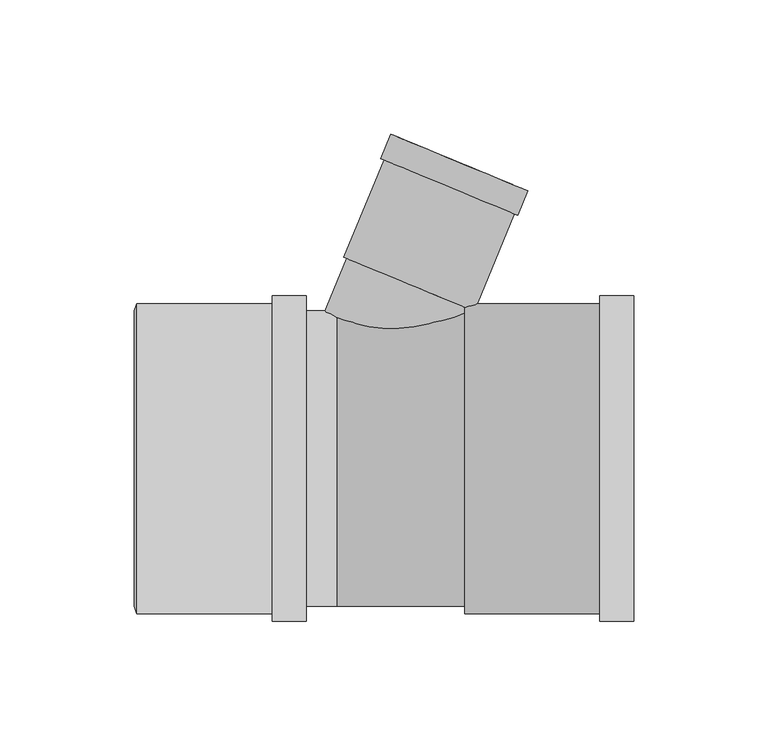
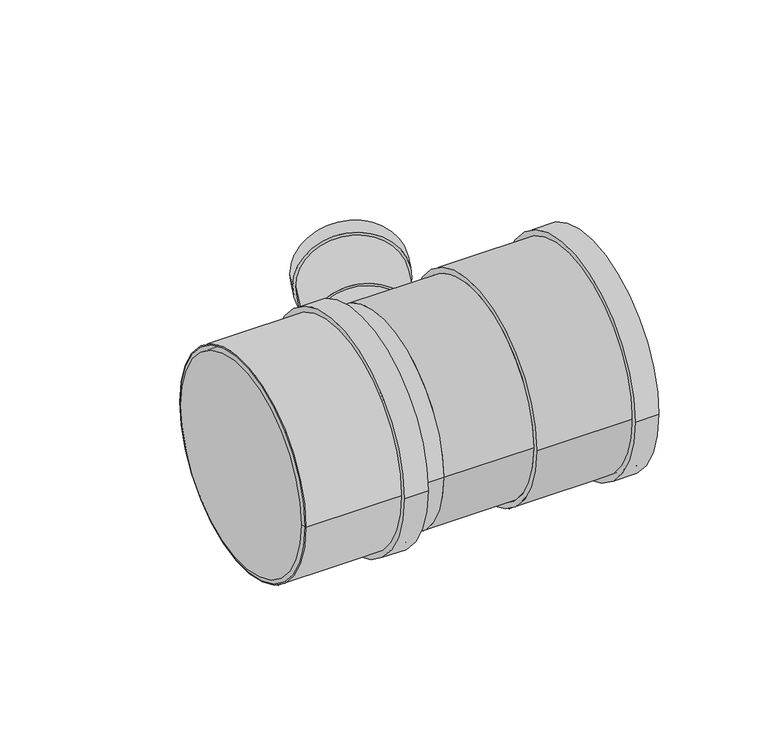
"""IFC4 building model written with IfcOpenShell, lengths in millimetres: pipe fitting geometry, Superdrain HTEA Branch : Superdrain HTEA Branch."""

import ifcopenshell
import ifcopenshell.guid

model = None  # the IFC model being written
_history = None  # IfcOwnerHistory: only IFC2X3 demands one
_inside = {}  # id of a spatial element -> (the spatial element, [elements in it])
_under = {}  # id of a project, library or spatial element -> (it, [spatial elements below it])
_declared = {}  # id of a project -> (the project, [libraries it declares])
_typed = {}  # id of a type object -> (the type object, [elements of that type])
_made_of = {}  # id of a material, layer set ... -> (it, [elements and type objects made of it])


def new_model(schema):
    """Start an empty IFC model of exactly this schema.

    Asked for "IFC4X3", IfcOpenShell would pick the latest addendum, in which some entities
    have other attributes; the version numbers below select the first issue.
    IFC2X3 requires an IfcOwnerHistory on every rooted entity: one is made here for all.
    """
    global model, _history
    if schema == "IFC4X3":
        model = ifcopenshell.file(schema_version=(4, 3, 0, 0))
    else:
        model = ifcopenshell.file(schema=schema)
    _inside.clear()
    _under.clear()
    _declared.clear()
    _typed.clear()
    _made_of.clear()
    _history = None
    if model.schema == "IFC2X3":
        org = make("IfcOrganization", Name="unknown")
        user = make(
            "IfcPersonAndOrganization",
            ThePerson=make("IfcPerson", FamilyName="unknown"),
            TheOrganization=org,
        )
        app = make(
            "IfcApplication",
            ApplicationDeveloper=org,
            Version="unknown",
            ApplicationFullName="unknown",
            ApplicationIdentifier="unknown",
        )
        _history = make(
            "IfcOwnerHistory",
            OwningUser=user,
            OwningApplication=app,
            ChangeAction="ADDED",
            CreationDate=0,
        )
    return model


def make(cls, **values):
    """One entity of the class cls with the attributes given. An attribute that is None is left unset."""
    return model.create_entity(
        cls, **{name: value for name, value in values.items() if value is not None}
    )


def rooted(cls, **values):
    """An entity with a GlobalId (a new one), such as an element, a storey or a relation."""
    return make(cls, GlobalId=ifcopenshell.guid.new(), OwnerHistory=_history, **values)


def si_unit(unit_type, name, prefix=None):
    """IfcSIUnit, for example si_unit("LENGTHUNIT", "METRE", prefix="MILLI")."""
    return make("IfcSIUnit", UnitType=unit_type, Prefix=prefix, Name=name)


def assignment(units):
    """IfcUnitAssignment: the units of a project."""
    return None if units is None else make("IfcUnitAssignment", Units=units)


def point(xyz):
    """IfcCartesianPoint."""
    return None if xyz is None else make("IfcCartesianPoint", Coordinates=xyz)


def direction(xyz):
    """IfcDirection."""
    return None if xyz is None else make("IfcDirection", DirectionRatios=xyz)


def frame(location, z_axis=None, x_axis=None):
    """IfcAxis2Placement3D, a coordinate frame: its origin and axes. An axis left out is left unset."""
    return make(
        "IfcAxis2Placement3D",
        Location=point(location),
        Axis=direction(z_axis),
        RefDirection=direction(x_axis),
    )


def frame_2d(location, x_axis=None):
    """IfcAxis2Placement2D, a coordinate frame in the plane: its origin and x axis."""
    return make(
        "IfcAxis2Placement2D", Location=point(location), RefDirection=direction(x_axis)
    )


def origin():
    """The frame at (0, 0, 0) with its axes left unset."""
    return frame((0.0, 0.0, 0.0))


def origin_2d():
    """The frame at (0, 0) in the plane with its x axis left unset."""
    return frame_2d((0.0, 0.0))


def place(relative_to, where):
    """IfcLocalPlacement: puts the frame where relative to a parent placement (None: the world)."""
    return make(
        "IfcLocalPlacement", PlacementRelTo=relative_to, RelativePlacement=where
    )


def context(
    kind, dimensions, precision=None, world=None, true_north=None, identifier=None
):
    """IfcGeometricRepresentationContext, for example the 3D "Model" context."""
    return make(
        "IfcGeometricRepresentationContext",
        ContextIdentifier=identifier,
        ContextType=kind,
        CoordinateSpaceDimension=dimensions,
        Precision=precision,
        WorldCoordinateSystem=world,
        TrueNorth=true_north,
    )


def project(units=None, contexts=None):
    """IfcProject with its units and contexts."""
    return rooted(
        "IfcProject",
        Name="project",
        RepresentationContexts=contexts,
        UnitsInContext=assignment(units),
    )


def spatial(cls, under=None, at=None, **own):
    """A site, building, storey or space (cls), placed at a placement, below another one or the project."""
    s = rooted(cls, ObjectPlacement=at, **own)
    if under is not None:
        _under.setdefault(under.id(), (under, []))[1].append(s)
    return s


def polyline(points):
    """IfcPolyline through the points."""
    return make("IfcPolyline", Points=[point(p) for p in points])


def circle_curve(where, radius):
    """IfcCircle in the frame where."""
    return make("IfcCircle", Position=where, Radius=radius)


def trimmed(basis, trim1, trim2, sense, master):
    """IfcTrimmedCurve: the piece of a basis curve between two trims."""
    return make(
        "IfcTrimmedCurve",
        BasisCurve=basis,
        Trim1=trim1,
        Trim2=trim2,
        SenseAgreement=sense,
        MasterRepresentation=master,
    )


def segment(curve, same_sense, transition):
    """IfcCompositeCurveSegment."""
    return make(
        "IfcCompositeCurveSegment",
        Transition=transition,
        SameSense=same_sense,
        ParentCurve=curve,
    )


def composite_curve(segments, self_intersect=None):
    """IfcCompositeCurve: segments joined end to end."""
    return make("IfcCompositeCurve", Segments=segments, SelfIntersect=self_intersect)


def outline(outer, holes=None, kind="AREA"):
    """IfcArbitraryClosedProfileDef: a profile drawn as a closed curve; with holes, ...WithVoids."""
    if holes is None:
        return make("IfcArbitraryClosedProfileDef", ProfileType=kind, OuterCurve=outer)
    return make(
        "IfcArbitraryProfileDefWithVoids",
        ProfileType=kind,
        OuterCurve=outer,
        InnerCurves=holes,
    )


def extrude(swept, where, along, depth):
    """IfcExtrudedAreaSolid: the profile swept, set in the frame where, extruded along a direction by depth."""
    return make(
        "IfcExtrudedAreaSolid",
        SweptArea=swept,
        Position=where,
        ExtrudedDirection=direction(along),
        Depth=depth,
    )


def shape(context_of_items, identifier, shape_type, items):
    """IfcShapeRepresentation: the items that make up one representation, for example the "Body"."""
    return make(
        "IfcShapeRepresentation",
        ContextOfItems=context_of_items,
        RepresentationIdentifier=identifier,
        RepresentationType=shape_type,
        Items=items,
    )


def source(mapping_origin, context_of_items, identifier, shape_type, items):
    """IfcRepresentationMap: a shape defined once, which mapped items show again and again."""
    return make(
        "IfcRepresentationMap",
        MappingOrigin=mapping_origin,
        MappedRepresentation=shape(context_of_items, identifier, shape_type, items),
    )


def transform(
    local_origin,
    x_axis=None,
    y_axis=None,
    z_axis=None,
    scale=None,
    scale2=None,
    scale3=None,
    uniform=True,
):
    """IfcCartesianTransformationOperator3D, or its non-uniform kind. x_axis, y_axis, z_axis: its Axis1, 2, 3."""
    if uniform:
        return make(
            "IfcCartesianTransformationOperator3D",
            Axis1=direction(x_axis),
            Axis2=direction(y_axis),
            LocalOrigin=point(local_origin),
            Scale=scale,
            Axis3=direction(z_axis),
        )
    return make(
        "IfcCartesianTransformationOperator3DnonUniform",
        Axis1=direction(x_axis),
        Axis2=direction(y_axis),
        LocalOrigin=point(local_origin),
        Scale=scale,
        Axis3=direction(z_axis),
        Scale2=scale2,
        Scale3=scale3,
    )


def mapped(mapping_source, mapping_target):
    """IfcMappedItem: shows the shape of a source again, moved by a transform."""
    return make(
        "IfcMappedItem", MappingSource=mapping_source, MappingTarget=mapping_target
    )


def made_of(thing, what):
    """Note that an element or type object is made of a material, layer set ...; save() writes the relation."""
    if what is not None:
        _made_of.setdefault(what.id(), (what, []))[1].append(thing)
    return thing


def element(
    cls,
    number,
    at=None,
    inside=None,
    cuts=None,
    type_object=None,
    material=None,
    context=None,
    identifier="Body",
    shape_type=None,
    held_by="IfcProductDefinitionShape",
    body=None,
    shapes=None,
    **own,
):
    """One element of the class cls, such as IfcWall. Its Tag is "e" and its number.

    at: its placement. inside: the storey or other place that contains it. cuts: it is an
    opening in that element (IfcRelVoidsElement). A single representation is given by context,
    identifier, shape_type and body (its items); several are given by shapes. held_by: the class
    of the entity that holds the representations. save() writes the other relations.
    """
    e = rooted(cls, Tag="e%d" % number, ObjectPlacement=at, **own)
    if body is not None:
        shapes = [shape(context, identifier, shape_type, body)]
    if shapes is not None:
        e.Representation = make(held_by, Representations=shapes)
    if inside is not None:
        _inside.setdefault(inside.id(), (inside, []))[1].append(e)
    if cuts is not None:
        rooted(
            "IfcRelVoidsElement", RelatingBuildingElement=cuts, RelatedOpeningElement=e
        )
    if type_object is not None:
        _typed.setdefault(type_object.id(), (type_object, []))[1].append(e)
    return made_of(e, material)


def aggregate(whole, parts):
    """IfcRelAggregates: a whole, such as a stair, and the parts it consists of."""
    return rooted("IfcRelAggregates", RelatingObject=whole, RelatedObjects=parts)


def save(model, path):
    """Write the relations noted so far, then the file.

    IfcRelAggregates (storeys below a building ...), IfcRelContainedInSpatialStructure (elements
    in a storey), IfcRelDefinesByType, IfcRelAssociatesMaterial and IfcRelDeclares: one each for
    every whole, place, type object, material and project.
    """
    for whole, parts in _under.values():
        aggregate(whole, parts)
    for where, things in _inside.values():
        rooted(
            "IfcRelContainedInSpatialStructure",
            RelatedElements=things,
            RelatingStructure=where,
        )
    for kind, things in _typed.values():
        rooted("IfcRelDefinesByType", RelatedObjects=things, RelatingType=kind)
    for what, things in _made_of.values():
        rooted("IfcRelAssociatesMaterial", RelatedObjects=things, RelatingMaterial=what)
    for by, libraries in _declared.values():
        rooted("IfcRelDeclares", RelatingContext=by, RelatedDefinitions=libraries)
    model.write(path)


def plane_surface(at):
    """IfcPlane: the flat surface through the origin of the frame at, square to its z axis."""
    return make("IfcPlane", Position=at)


def revolved_surface(curve, axis_point, axis_direction):
    """IfcSurfaceOfRevolution: the curve turned about the line through axis_point along axis_direction."""
    return make(
        "IfcSurfaceOfRevolution",
        SweptCurve=make("IfcArbitraryOpenProfileDef", ProfileType="CURVE", Curve=curve),
        AxisPosition=make("IfcAxis1Placement", Location=point(axis_point), Axis=direction(axis_direction)),
    )


def advanced_brep(points, edges, surfaces, faces):
    """IfcAdvancedBrep: a solid bounded by faces that lie on surfaces and meet in shared edges.

    An edge is (start, end): straight between two places in points (the first is 0);
    or (start, end, curve); or (start, end, curve, False) where it runs against its curve.
    A face is (place in surfaces, loops), or (place, loops, False) where it looks against
    its surface's normal. A loop lists edges by number (the first is 1), with a minus sign
    where the edge is run from its end to its start. The first loop is the outer one.
    """
    corners = [point(p) for p in points]
    vertices = [make("IfcVertexPoint", VertexGeometry=c) for c in corners]
    made = []
    for start, end, *more in edges:
        made.append(
            make(
                "IfcEdgeCurve",
                EdgeStart=vertices[start],
                EdgeEnd=vertices[end],
                EdgeGeometry=more[0] if more else make("IfcPolyline", Points=[corners[start], corners[end]]),
                SameSense=more[1] if len(more) > 1 else True,
            )
        )
    hull = []
    for where, loops, *sense in faces:
        bounds = []
        for j, loop in enumerate(loops):
            ring = [make("IfcOrientedEdge", EdgeElement=made[abs(k) - 1], Orientation=k > 0) for k in loop]
            bounds.append(
                make(
                    "IfcFaceOuterBound" if j == 0 else "IfcFaceBound",
                    Bound=make("IfcEdgeLoop", EdgeList=ring),
                    Orientation=True,
                )
            )
        hull.append(make("IfcAdvancedFace", Bounds=bounds, FaceSurface=surfaces[where], SameSense=sense[0] if sense else True))
    return make("IfcAdvancedBrep", Outer=make("IfcClosedShell", CfsFaces=hull))


def pipe_fitting_2df8d73d(model_context):
    return source(origin(), model_context, "Body", "SolidModel", [
        extrude(outline(composite_curve([segment(trimmed(circle_curve(origin_2d(), 57.75), [point((57.75, 0.0))], [point((-57.75, 0.0))], False, "CARTESIAN"), True, "CONTINUOUS"), segment(trimmed(circle_curve(origin_2d(), 57.75), [point((-57.75, 0.0))], [point((57.75, 0.0))], False, "CARTESIAN"), True, "CONTINUOUS")], self_intersect=False), holes=[composite_curve([segment(trimmed(circle_curve(origin_2d(), 55.0), [point((55.0, 0.0))], [point((-55.0, 0.0))], True, "CARTESIAN"), True, "CONTINUOUS"), segment(trimmed(circle_curve(origin_2d(), 55.0), [point((-55.0, 0.0))], [point((55.0, 0.0))], True, "CARTESIAN"), True, "CONTINUOUS")], self_intersect=False)]), frame((-74.4, 0.0, 0.0), z_axis=(1.0, 0.0, 0.0), x_axis=(0.0, 1.0, 0.0)), (0.0, 0.0, 1.0), 63.0),
        extrude(outline(composite_curve([segment(trimmed(circle_curve(origin_2d(), 60.6375), [point((60.6375, 0.0))], [point((-60.6375, 0.0))], False, "CARTESIAN"), True, "CONTINUOUS"), segment(trimmed(circle_curve(origin_2d(), 60.6375), [point((-60.6375, 0.0))], [point((60.6375, 0.0))], False, "CARTESIAN"), True, "CONTINUOUS")], self_intersect=False), holes=[composite_curve([segment(trimmed(circle_curve(origin_2d(), 55.0), [point((55.0, 0.0))], [point((-55.0, 0.0))], True, "CARTESIAN"), True, "CONTINUOUS"), segment(trimmed(circle_curve(origin_2d(), 55.0), [point((-55.0, 0.0))], [point((55.0, 0.0))], True, "CARTESIAN"), True, "CONTINUOUS")], self_intersect=False)]), frame((-24.0, 0.0, 0.0), z_axis=(1.0, 0.0, 0.0), x_axis=(0.0, 1.0, 0.0)), (0.0, 0.0, 1.0), 12.6),
        advanced_brep(
        [(-75.4, 55.0, 0.0), (-75.4, -55.0, 0.0), (-74.4, 57.75, 0.0), (-74.4, -57.75, 0.0)],
        [
            (0, 1, circle_curve(frame((-75.4, 0.0, 0.0), z_axis=(-1.0, 0.0, 0.0), x_axis=(0.0, 1.0000000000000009, 0.0)), 55.0)),
            (1, 0, circle_curve(frame((-75.4, 0.0, 0.0), z_axis=(-1.0, 0.0, 0.0), x_axis=(0.0, -1.0000000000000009, 0.0)), 55.0)),
            (2, 3, circle_curve(frame((-74.4, 0.0, 0.0), z_axis=(1.0, 0.0, 0.0), x_axis=(0.0, -1.0000000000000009, 0.0)), 57.75)),
            (3, 2, circle_curve(frame((-74.4, 0.0, 0.0), z_axis=(1.0, 0.0, 0.0), x_axis=(0.0, 1.0000000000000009, 0.0)), 57.75)),
            (3, 1),
            (0, 2),
        ],
        [
            plane_surface(frame((-75.4, 0.0, 0.0), z_axis=(-1.0, 0.0, 0.0), x_axis=(0.0, 0.0, -1.0))),
            plane_surface(frame((-74.4, 0.0, 0.0), z_axis=(1.0, 0.0, 0.0), x_axis=(0.0, 0.0, -1.0))),
            revolved_surface(polyline([(-75.4, 54.99999999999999, 0.0), (-74.4, 57.75, 0.0)]), (-95.4, 0.0, 0.0), (1.0000000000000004, 0.0, 0.0)),
            revolved_surface(polyline([(-75.4, -54.99999999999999, 0.0), (-74.4, -57.75, 0.0)]), (-95.4, 0.0, 0.0), (1.0000000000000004, 0.0, 0.0)),
        ],
        [
            (0, [[1, 2]]),
            (1, [[3, 4]]),
            (2, [[-4, 5, -1, 6]]),
            (3, [[-3, -6, -2, -5]]),
        ],
    ),
        extrude(outline(composite_curve([segment(trimmed(circle_curve(origin_2d(), 57.75), [point((-57.75, 0.0))], [point((57.75, 0.0))], False, "CARTESIAN"), True, "CONTINUOUS"), segment(trimmed(circle_curve(origin_2d(), 57.75), [point((57.75, 0.0))], [point((-57.75, 0.0))], False, "CARTESIAN"), True, "CONTINUOUS")], self_intersect=False), holes=[composite_curve([segment(trimmed(circle_curve(origin_2d(), 55.0), [point((55.0, 0.0))], [point((-55.0, 0.0))], True, "CARTESIAN"), True, "CONTINUOUS"), segment(trimmed(circle_curve(origin_2d(), 55.0), [point((-55.0, 0.0))], [point((55.0, 0.0))], True, "CARTESIAN"), True, "CONTINUOUS")], self_intersect=False)]), frame((47.6, 0.0, 0.0), z_axis=(1.0, 0.0, 0.0), x_axis=(0.0, 1.0, 0.0)), (0.0, 0.0, 1.0), 63.0),
        extrude(outline(composite_curve([segment(trimmed(circle_curve(origin_2d(), 60.6375), [point((60.6375, 0.0))], [point((-60.6375, 0.0))], False, "CARTESIAN"), True, "CONTINUOUS"), segment(trimmed(circle_curve(origin_2d(), 60.6375), [point((-60.6375, 0.0))], [point((60.6375, 0.0))], False, "CARTESIAN"), True, "CONTINUOUS")], self_intersect=False), holes=[composite_curve([segment(trimmed(circle_curve(origin_2d(), 55.0), [point((55.0, 0.0))], [point((-55.0, 0.0))], True, "CARTESIAN"), True, "CONTINUOUS"), segment(trimmed(circle_curve(origin_2d(), 55.0), [point((-55.0, 0.0))], [point((55.0, 0.0))], True, "CARTESIAN"), True, "CONTINUOUS")], self_intersect=False)]), frame((98.0, 0.0, 0.0), z_axis=(1.0, 0.0, 0.0), x_axis=(0.0, 1.0, 0.0)), (0.0, 0.0, 1.0), 12.6),
        extrude(outline(composite_curve([segment(trimmed(circle_curve(origin_2d(), 25.0), [point((0.0, 25.0))], [point((0.0, -25.0))], False, "CARTESIAN"), True, "CONTINUOUS"), segment(trimmed(circle_curve(origin_2d(), 25.0), [point((0.0, -25.0))], [point((0.0, 25.0))], False, "CARTESIAN"), True, "CONTINUOUS")], self_intersect=False)), frame((0.0, 0.0, 0.0), z_axis=(0.38268343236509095, 0.9238795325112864, 0.0), x_axis=(0.0, 0.0, 1.0)), (0.0, 0.0, 1.0), 70.3),
        extrude(outline(composite_curve([segment(trimmed(circle_curve(origin_2d(), 55.0), [point((55.0, 0.0))], [point((-55.0, 0.0))], False, "CARTESIAN"), True, "CONTINUOUS"), segment(trimmed(circle_curve(origin_2d(), 55.0), [point((-55.0, 0.0))], [point((55.0, 0.0))], False, "CARTESIAN"), True, "CONTINUOUS")], self_intersect=False)), frame((-74.4, 0.0, 0.0), z_axis=(1.0, 0.0, 0.0), x_axis=(0.0, 1.0, 0.0)), (0.0, 0.0, 1.0), 74.4),
        extrude(outline(composite_curve([segment(trimmed(circle_curve(origin_2d(), 55.0), [point((-55.0, 0.0))], [point((55.0, 0.0))], False, "CARTESIAN"), True, "CONTINUOUS"), segment(trimmed(circle_curve(origin_2d(), 55.0), [point((55.0, 0.0))], [point((-55.0, 0.0))], False, "CARTESIAN"), True, "CONTINUOUS")], self_intersect=False)), frame((0.0, 0.0, 0.0), z_axis=(1.0, 0.0, 0.0), x_axis=(0.0, 1.0, 0.0)), (0.0, 0.0, 1.0), 47.6),
        extrude(outline(composite_curve([segment(trimmed(circle_curve(origin_2d(), 27.5625), [point((0.0, 27.5625001))], [point((0.0, -27.5625))], False, "CARTESIAN"), True, "CONTINUOUS"), segment(trimmed(circle_curve(origin_2d(), 27.5625), [point((0.0, -27.5625))], [point((0.0, 27.5625001))], False, "CARTESIAN"), True, "CONTINUOUS")], self_intersect=False), holes=[composite_curve([segment(trimmed(circle_curve(origin_2d(), 25.0), [point((0.0, 25.0000001))], [point((0.0, -25.0))], True, "CARTESIAN"), True, "CONTINUOUS"), segment(trimmed(circle_curve(origin_2d(), 25.0), [point((0.0, -25.0))], [point((0.0, 25.0000001))], True, "CARTESIAN"), True, "CONTINUOUS")], self_intersect=False)]), frame((41.9038358, 101.1648088, 0.0), z_axis=(0.38268343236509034, 0.9238795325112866, 0.0), x_axis=(0.0, 0.0, 1.0)), (0.0, 0.0, 1.0), 9.8),
        extrude(outline(composite_curve([segment(trimmed(circle_curve(origin_2d(), 26.25), [point((0.0, 26.25))], [point((0.0, -26.25))], False, "CARTESIAN"), True, "CONTINUOUS"), segment(trimmed(circle_curve(origin_2d(), 26.25), [point((0.0, -26.25))], [point((0.0, 26.25))], False, "CARTESIAN"), True, "CONTINUOUS")], self_intersect=False), holes=[composite_curve([segment(trimmed(circle_curve(origin_2d(), 25.0), [point((0.0, 25.0))], [point((0.0, -25.0))], True, "CARTESIAN"), True, "CONTINUOUS"), segment(trimmed(circle_curve(origin_2d(), 25.0), [point((0.0, -25.0))], [point((0.0, 25.0))], True, "CARTESIAN"), True, "CONTINUOUS")], self_intersect=False)]), frame((26.9026453, 64.9487311, 0.0), z_axis=(0.38268343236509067, 0.9238795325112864, 0.0), x_axis=(0.0, 0.0, 1.0)), (0.0, 0.0, 1.0), 49.0),
    ])


if __name__ == "__main__":
    model = new_model("IFC4")
    model_context = context("Model", 3, world=origin())
    ifc_project = project(units=[si_unit("LENGTHUNIT", "METRE", prefix="MILLI")], contexts=[model_context])
    site = spatial("IfcSite", under=ifc_project)
    building = spatial("IfcBuilding", under=site)
    placement = place(None, origin())
    pipe_fitting_shape = pipe_fitting_2df8d73d(model_context)
    element("IfcPipeFitting", 1, ObjectType="Superdrain HTEA Branch : Superdrain HTEA Branch", at=placement, inside=building, context=model_context, shape_type="MappedRepresentation", body=[
        mapped(pipe_fitting_shape, transform((0.0, 0.0, 0.0), x_axis=(1.0, 0.0, 0.0), y_axis=(0.0, 1.0, 0.0), z_axis=(0.0, 0.0, 1.0))),
    ])
    save(model, "model.ifc")
